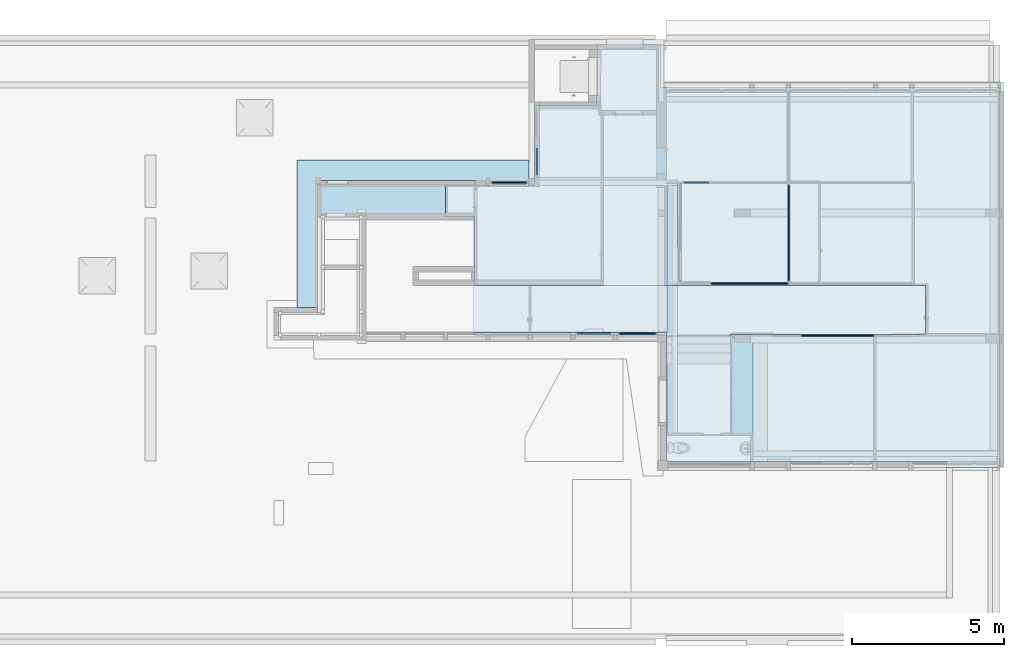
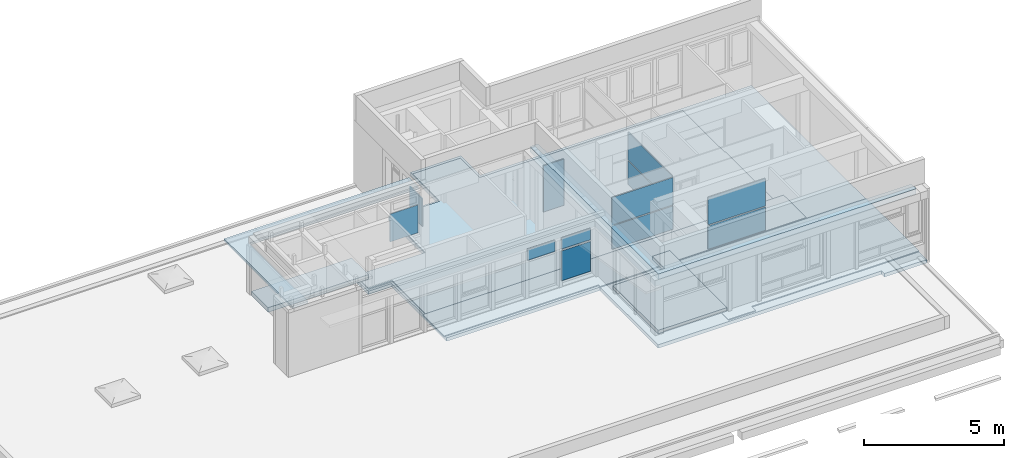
# One storey, part 19 of 49: 12 plates, 7 slabs, 10 elements without a shape of their own.
"""IFC4 building model written with IfcOpenShell, lengths in metres."""

from ifc_helpers import new_model, entity, si_unit, converted_unit, derived_unit, direction, frame, origin, place, context, subcontext, project, spatial, indexed_curve, outline, extrude, shape, source, transform, mapped, material, layer, layer_set, type_object, type_shapes, element, aggregate, save


model = new_model("IFC4")

# Units and contexts
model_context = context("Model", 3, precision=1e-05, world=origin(), true_north=direction((6.12303176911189e-17, 1.0)))
body_context = subcontext(model_context, "Body", "Model", "MODEL_VIEW")
footprint_context = subcontext(model_context, "FootPrint", "Model", "MODEL_VIEW")
ifc_project = project(units=[si_unit("LENGTHUNIT", "METRE"), si_unit("AREAUNIT", "SQUARE_METRE"), si_unit("VOLUMEUNIT", "CUBIC_METRE"), converted_unit("PLANEANGLEUNIT", "DEGREE", entity("IfcRatioMeasure", 0.0174532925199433), si_unit("PLANEANGLEUNIT", "RADIAN"), dimensions=[0, 0, 0, 0, 0, 0, 0]), si_unit("MASSUNIT", "GRAM", prefix="KILO"), derived_unit("MASSDENSITYUNIT", [(si_unit("MASSUNIT", "GRAM", prefix="KILO"), 1), (si_unit("LENGTHUNIT", "METRE"), -3)]), derived_unit("MOMENTOFINERTIAUNIT", [(si_unit("LENGTHUNIT", "METRE"), 4)]), si_unit("TIMEUNIT", "SECOND"), si_unit("FREQUENCYUNIT", "HERTZ"), si_unit("THERMODYNAMICTEMPERATUREUNIT", "DEGREE_CELSIUS"), derived_unit("THERMALTRANSMITTANCEUNIT", [(si_unit("MASSUNIT", "GRAM", prefix="KILO"), 1), (si_unit("THERMODYNAMICTEMPERATUREUNIT", "KELVIN"), -1), (si_unit("TIMEUNIT", "SECOND"), -3)]), derived_unit("VOLUMETRICFLOWRATEUNIT", [(si_unit("LENGTHUNIT", "METRE"), 3), (si_unit("TIMEUNIT", "SECOND"), -1)]), si_unit("ELECTRICCURRENTUNIT", "AMPERE"), si_unit("ELECTRICVOLTAGEUNIT", "VOLT"), si_unit("POWERUNIT", "WATT"), si_unit("FORCEUNIT", "NEWTON", prefix="KILO"), si_unit("ILLUMINANCEUNIT", "LUX"), si_unit("LUMINOUSFLUXUNIT", "LUMEN"), si_unit("LUMINOUSINTENSITYUNIT", "CANDELA"), derived_unit("USERDEFINED", [(si_unit("MASSUNIT", "GRAM", prefix="KILO"), -1), (si_unit("LENGTHUNIT", "METRE"), -2), (si_unit("TIMEUNIT", "SECOND"), 3), (si_unit("LUMINOUSFLUXUNIT", "LUMEN"), 1)]), derived_unit("LINEARVELOCITYUNIT", [(si_unit("LENGTHUNIT", "METRE"), 1), (si_unit("TIMEUNIT", "SECOND"), -1)]), si_unit("PRESSUREUNIT", "PASCAL"), derived_unit("USERDEFINED", [(si_unit("LENGTHUNIT", "METRE"), -2), (si_unit("MASSUNIT", "GRAM", prefix="KILO"), 1), (si_unit("TIMEUNIT", "SECOND"), -2)]), derived_unit("LINEARFORCEUNIT", [(si_unit("MASSUNIT", "GRAM", prefix="KILO"), 1), (si_unit("LENGTHUNIT", "METRE"), 1), (si_unit("TIMEUNIT", "SECOND"), -2), (si_unit("LENGTHUNIT", "METRE"), -1)]), derived_unit("PLANARFORCEUNIT", [(si_unit("MASSUNIT", "GRAM", prefix="KILO"), 1), (si_unit("LENGTHUNIT", "METRE"), 1), (si_unit("TIMEUNIT", "SECOND"), -2), (si_unit("LENGTHUNIT", "METRE"), -2)])], contexts=[model_context])

# Site, building, storey
site_placement = place(None, origin())
site = spatial("IfcSite", under=ifc_project, at=site_placement, Name="Default", CompositionType="ELEMENT")
building_placement = place(site_placement, origin())
building = spatial("IfcBuilding", under=site, at=building_placement, Name="HOTEL CONSULAIRE BOULOGNE SUR MER", CompositionType="ELEMENT")
storey_placement = place(building_placement, frame((0.0, 0.0, 6.81974152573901)))
storey = spatial("IfcBuildingStorey", under=building, at=storey_placement, Name="Niveau 2", CompositionType="ELEMENT", Elevation=6.81974152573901)

# Curtain wall, plates
curtain_wall_type = type_object("IfcCurtainWallType", Name="Mur-rideau:Simple panneau", PredefinedType="NOTDEFINED")
curtain_wall_1_placement = place(storey_placement, frame((0.0, 0.0, -6.81974152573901)))
curtain_wall_1 = element("IfcCurtainWall", 1, at=curtain_wall_1_placement, inside=storey, type_object=curtain_wall_type, Name="Mur-rideau:Simple panneau", ObjectType="Mur-rideau:Simple panneau", PredefinedType="NOTDEFINED")
ifc_material_1 = material(Name="Verre", Category="Verre")
ifc_layer_1 = layer(ifc_material_1, 0.04, Name="Verre", Category="Verre")
ifc_layer_set_1 = layer_set([ifc_layer_1], Name="Mur-rideau:Simple panneau")
plate_type_1 = type_object("IfcPlateType", Name="Panneau système:Plein", PredefinedType="CURTAIN_PANEL", material=ifc_layer_set_1)
shared_shape_1 = source(origin(), body_context, "Body", "SweptSolid", [
    extrude(outline(indexed_curve([(-0.02, -1.1855), (0.02, -1.1855), (0.02, 1.1855), (-0.02, 1.1855), (-0.02, -1.1855)], self_intersect=False)), frame((1.1855, 0.02, 0.0), z_axis=(0.0, 0.0, 1.0), x_axis=(0.0, 1.0, 0.0)), (0.0, 0.0, 1.0), 1.016),
])
shared_shape_2 = source(frame((-1.1855, 0.00500000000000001, 0.0)), footprint_context, "FootPrint", "Curve2D", [
    entity("IfcIndexedPolyCurve", entity("IfcCartesianPointList2D", [[1.5468404, 0.003476], [1.5468404, 0.043476], [-0.824159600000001, 0.043476], [-0.824159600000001, 0.003476], [1.5468404, 0.003476]]), None, False),
])
type_shapes(plate_type_1, [shared_shape_1, shared_shape_2])
plate_1_placement = place(curtain_wall_1_placement, frame((18.4983568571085, -19.648155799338, 6.88974152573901), z_axis=(0.0, 0.0, 1.0), x_axis=(-1.0, 0.0, 0.0)))
plate_1 = element("IfcPlate", 2, at=plate_1_placement, type_object=plate_type_1, material=ifc_layer_set_1, Name="Panneau système:Plein", ObjectType="Panneau système:Plein", PredefinedType="CURTAIN_PANEL", shapes=[
    shape(body_context, "Body", "MappedRepresentation", [mapped(shared_shape_1, transform((0.0, 0.0, 0.0), scale=1.0))]),
    shape(body_context, "Body", "MappedRepresentation", [mapped(shared_shape_2, transform((0.0, 0.0, 0.0), scale=1.0))]),
])
ifc_layer_2 = layer(ifc_material_1, 0.04, Name="Verre", Category="Verre")
ifc_layer_set_2 = layer_set([ifc_layer_2], Name="Mur-rideau:Simple panneau")
plate_type_2 = type_object("IfcPlateType", Name="Panneau système:Vitré", PredefinedType="CURTAIN_PANEL", material=ifc_layer_set_2)
shared_shape_3 = source(origin(), body_context, "Body", "SweptSolid", [
    extrude(outline(indexed_curve([(-0.702, -1.1855), (0.208, -1.1855), (0.494, -1.1855), (0.494, 1.1855), (0.208, 1.1855), (-0.702, 1.1855), (-0.702, -1.1855)], self_intersect=False)), frame((1.1855, 0.0, 0.702), z_axis=(0.0, 1.0, 0.0), x_axis=(0.0, 0.0, 1.0)), (0.0, 0.0, 1.0), 0.04),
])
shared_shape_4 = source(frame((-1.1855, 0.00500000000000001, 0.0)), footprint_context, "FootPrint", "Curve2D", [
    entity("IfcIndexedPolyCurve", entity("IfcCartesianPointList2D", [[-0.824159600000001, 0.003476], [-0.824159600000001, 0.003476], [-0.824159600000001, 0.003476], [1.5468404, 0.003476], [1.5468404, 0.003476], [1.5468404, 0.003476], [-0.824159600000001, 0.003476]]), None, False),
])
type_shapes(plate_type_2, [shared_shape_3, shared_shape_4])
plate_2_placement = place(curtain_wall_1_placement, frame((18.4983568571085, -19.648155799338, 7.95574152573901), z_axis=(0.0, 0.0, 1.0), x_axis=(-1.0, 0.0, 0.0)))
plate_2 = element("IfcPlate", 3, at=plate_2_placement, type_object=plate_type_2, material=ifc_layer_set_2, Name="Panneau système:Vitré", ObjectType="Panneau système:Vitré", PredefinedType="CURTAIN_PANEL", shapes=[
    shape(body_context, "Body", "MappedRepresentation", [mapped(shared_shape_3, transform((0.0, 0.0, 0.0), scale=1.0))]),
    shape(body_context, "Body", "MappedRepresentation", [mapped(shared_shape_4, transform((0.0, 0.0, 0.0), scale=1.0))]),
])
aggregate(curtain_wall_1, [plate_1, plate_2])

# Curtain wall, plate
curtain_wall_2_placement = place(storey_placement, frame((0.0, 0.0, -6.81974152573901)))
curtain_wall_2 = element("IfcCurtainWall", 4, at=curtain_wall_2_placement, inside=storey, type_object=curtain_wall_type, Name="Mur-rideau:Simple panneau", ObjectType="Mur-rideau:Simple panneau", PredefinedType="NOTDEFINED")
plate_type_3 = type_object("IfcPlateType", Name="Panneau système:Plein", PredefinedType="CURTAIN_PANEL", material=ifc_layer_set_1)
shared_shape_5 = source(origin(), body_context, "Body", "SweptSolid", [
    extrude(outline(indexed_curve([(-0.02, -1.2565), (0.02, -1.2565), (0.02, 1.2565), (-0.02, 1.2565), (-0.02, -1.2565)], self_intersect=False)), frame((1.2565, 0.02, 0.0), z_axis=(0.0, 0.0, 1.0), x_axis=(0.0, 1.0, 0.0)), (0.0, 0.0, 1.0), 1.016),
])
shared_shape_6 = source(frame((-1.2565, 0.00500000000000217, 0.0)), footprint_context, "FootPrint", "Curve2D", [
    entity("IfcIndexedPolyCurve", entity("IfcCartesianPointList2D", [[1.6394812, 0.00347600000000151], [1.6394812, 0.0434760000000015], [-0.873518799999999, 0.0434760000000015], [-0.873518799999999, 0.00347600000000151], [1.6394812, 0.00347600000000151]]), None, False),
])
type_shapes(plate_type_3, [shared_shape_5, shared_shape_6])
plate_3_placement = place(curtain_wall_2_placement, frame((15.661075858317, -17.9363078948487, 6.88974152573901), z_axis=(0.0, 0.0, 1.0), x_axis=(-1.0, 0.0, 0.0)))
plate_3 = element("IfcPlate", 5, at=plate_3_placement, type_object=plate_type_3, material=ifc_layer_set_1, Name="Panneau système:Plein", ObjectType="Panneau système:Plein", PredefinedType="CURTAIN_PANEL", shapes=[
    shape(body_context, "Body", "MappedRepresentation", [mapped(shared_shape_5, transform((0.0, 0.0, 0.0), scale=1.0))]),
    shape(body_context, "Body", "MappedRepresentation", [mapped(shared_shape_6, transform((0.0, 0.0, 0.0), scale=1.0))]),
])

curtain_wall_3_placement = place(storey_placement, frame((0.0, 0.0, -6.81974152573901)))
curtain_wall_3 = element("IfcCurtainWall", 6, at=curtain_wall_3_placement, inside=storey, type_object=curtain_wall_type, Name="Mur-rideau:Simple panneau", ObjectType="Mur-rideau:Simple panneau", PredefinedType="NOTDEFINED")
plate_type_4 = type_object("IfcPlateType", Name="Panneau système:Plein", PredefinedType="CURTAIN_PANEL", material=ifc_layer_set_1)
shared_shape_7 = source(origin(), body_context, "Body", "SweptSolid", [
    extrude(outline(indexed_curve([(-1.044, -0.421500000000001), (0.0670000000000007, -0.421500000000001), (0.976999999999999, -0.421500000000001), (0.976999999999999, 0.421500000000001), (0.0670000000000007, 0.421500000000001), (-1.044, 0.421500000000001), (-1.044, -0.421500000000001)], self_intersect=False)), frame((0.421500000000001, 0.0, 1.044), z_axis=(0.0, 1.0, 0.0), x_axis=(0.0, 0.0, 1.0)), (0.0, 0.0, 1.0), 0.04),
])
shared_shape_8 = source(frame((-0.4215, 0.00500000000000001, 0.0)), footprint_context, "FootPrint", "Curve2D", [
    entity("IfcIndexedPolyCurve", entity("IfcCartesianPointList2D", [[-0.2930268, 0.003476], [-0.2930268, 0.003476], [-0.2930268, 0.003476], [0.549973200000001, 0.003476], [0.549973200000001, 0.003476], [0.549973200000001, 0.003476], [-0.2930268, 0.003476]]), None, False),
])
type_shapes(plate_type_4, [shared_shape_7, shared_shape_8])
plate_4_placement = place(curtain_wall_3_placement, frame((13.078075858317, -14.6074237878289, 6.81974152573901), z_axis=(0.0, 0.0, 1.0), x_axis=(-1.0, 0.0, 0.0)))
plate_4 = element("IfcPlate", 7, at=plate_4_placement, type_object=plate_type_4, material=ifc_layer_set_1, Name="Panneau système:Plein", ObjectType="Panneau système:Plein", PredefinedType="CURTAIN_PANEL", shapes=[
    shape(body_context, "Body", "MappedRepresentation", [mapped(shared_shape_7, transform((0.0, 0.0, 0.0), scale=1.0))]),
    shape(body_context, "Body", "MappedRepresentation", [mapped(shared_shape_8, transform((0.0, 0.0, 0.0), scale=1.0))]),
])
aggregate(curtain_wall_3, [plate_4])

# Curtain wall, plates
curtain_wall_4_placement = place(storey_placement, frame((0.0, 0.0, -6.81974152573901)))
curtain_wall_4 = element("IfcCurtainWall", 8, at=curtain_wall_4_placement, inside=storey, type_object=curtain_wall_type, Name="Mur-rideau:Simple panneau", ObjectType="Mur-rideau:Simple panneau", PredefinedType="NOTDEFINED")
plate_type_5 = type_object("IfcPlateType", Name="Panneau système:Plein", PredefinedType="CURTAIN_PANEL", material=ifc_layer_set_1)
shared_shape_9 = source(origin(), body_context, "Body", "SweptSolid", [
    extrude(outline(indexed_curve([(-0.02, -1.56944205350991), (0.02, -1.56944205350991), (0.02, 1.56944205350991), (-0.02, 1.56944205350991), (-0.02, -1.56944205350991)], self_intersect=False)), frame((1.56944205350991, 0.02, 0.0), z_axis=(0.0, 0.0, 1.0), x_axis=(0.0, 1.0, 0.0)), (0.0, 0.0, 1.0), 1.016),
])
shared_shape_10 = source(frame((-1.56944205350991, 0.00500000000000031, 0.0)), footprint_context, "FootPrint", "Curve2D", [
    entity("IfcIndexedPolyCurve", entity("IfcCartesianPointList2D", [[2.04780799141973, 0.00347600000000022], [2.04780799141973, 0.0434760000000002], [-1.09107611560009, 0.0434760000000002], [-1.09107611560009, 0.00347600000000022], [2.04780799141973, 0.00347600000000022]]), None, False),
])
type_shapes(plate_type_5, [shared_shape_9, shared_shape_10])
plate_5_placement = place(curtain_wall_4_placement, frame((15.7220339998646, -17.8613078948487, 6.88974152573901), z_axis=(0.0, 0.0, 1.0), x_axis=(0.0, 1.0, 0.0)))
plate_5 = element("IfcPlate", 9, at=plate_5_placement, type_object=plate_type_5, material=ifc_layer_set_1, Name="Panneau système:Plein", ObjectType="Panneau système:Plein", PredefinedType="CURTAIN_PANEL", shapes=[
    shape(body_context, "Body", "MappedRepresentation", [mapped(shared_shape_9, transform((0.0, 0.0, 0.0), scale=1.0))]),
    shape(body_context, "Body", "MappedRepresentation", [mapped(shared_shape_10, transform((0.0, 0.0, 0.0), scale=1.0))]),
])
plate_type_6 = type_object("IfcPlateType", Name="Panneau système:Vitré", PredefinedType="CURTAIN_PANEL", material=ifc_layer_set_2)
shared_shape_11 = source(origin(), body_context, "Body", "SweptSolid", [
    extrude(outline(indexed_curve([(-0.02, -1.56944205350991), (0.02, -1.56944205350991), (0.02, 1.56944205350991), (-0.02, 1.56944205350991), (-0.02, -1.56944205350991)], self_intersect=False)), frame((1.56944205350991, 0.02, 0.0), z_axis=(0.0, 0.0, 1.0), x_axis=(0.0, 1.0, 0.0)), (0.0, 0.0, 1.0), 1.196),
])
shared_shape_12 = source(frame((-1.56944205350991, 0.00500000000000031, 0.0)), footprint_context, "FootPrint", "Curve2D", [
    entity("IfcIndexedPolyCurve", entity("IfcCartesianPointList2D", [[2.04780799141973, 0.00347600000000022], [2.04780799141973, 0.0434760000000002], [-1.09107611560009, 0.0434760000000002], [-1.09107611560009, 0.00347600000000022], [2.04780799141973, 0.00347600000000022]]), None, False),
])
type_shapes(plate_type_6, [shared_shape_11, shared_shape_12])
plate_6_placement = place(curtain_wall_4_placement, frame((15.7220339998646, -17.8613078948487, 7.95574152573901), z_axis=(0.0, 0.0, 1.0), x_axis=(0.0, 1.0, 0.0)))
plate_6 = element("IfcPlate", 10, at=plate_6_placement, type_object=plate_type_6, material=ifc_layer_set_2, Name="Panneau système:Vitré", ObjectType="Panneau système:Vitré", PredefinedType="CURTAIN_PANEL", shapes=[
    shape(body_context, "Body", "MappedRepresentation", [mapped(shared_shape_11, transform((0.0, 0.0, 0.0), scale=1.0))]),
    shape(body_context, "Body", "MappedRepresentation", [mapped(shared_shape_12, transform((0.0, 0.0, 0.0), scale=1.0))]),
])
aggregate(curtain_wall_4, [plate_5, plate_6])

# Curtain wall, plate
curtain_wall_5_placement = place(storey_placement, frame((0.0, 0.0, -6.81974152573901)))
curtain_wall_5 = element("IfcCurtainWall", 11, at=curtain_wall_5_placement, inside=storey, type_object=curtain_wall_type, Name="Mur-rideau:Simple panneau", ObjectType="Mur-rideau:Simple panneau", PredefinedType="NOTDEFINED")
plate_type_7 = type_object("IfcPlateType", Name="Panneau système:Vitré", PredefinedType="CURTAIN_PANEL", material=ifc_layer_set_2)
shared_shape_13 = source(origin(), body_context, "Body", "SweptSolid", [
    extrude(outline(indexed_curve([(-0.02, -0.57), (0.02, -0.57), (0.02, 0.57), (-0.02, 0.57), (-0.02, -0.57)], self_intersect=False)), frame((0.57, 0.02, 0.0), z_axis=(0.0, 0.0, 1.0), x_axis=(0.0, 1.0, 0.0)), (0.0, 0.0, 1.0), 0.48689394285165),
])
shared_shape_14 = source(frame((-0.569999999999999, 0.00500000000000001, 0.0)), footprint_context, "FootPrint", "Curve2D", [
    entity("IfcIndexedPolyCurve", entity("IfcCartesianPointList2D", [[0.743736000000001, 0.003476], [0.743736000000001, 0.043476], [-0.396263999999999, 0.043476], [-0.396263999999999, 0.003476], [0.743736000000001, 0.003476]]), None, False),
])
type_shapes(plate_type_7, [shared_shape_13, shared_shape_14])
plate_7_placement = place(curtain_wall_5_placement, frame((8.70421154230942, -19.6269143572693, 8.96174152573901)))
plate_7 = element("IfcPlate", 12, at=plate_7_placement, type_object=plate_type_7, material=ifc_layer_set_2, Name="Panneau système:Vitré", ObjectType="Panneau système:Vitré", PredefinedType="CURTAIN_PANEL", shapes=[
    shape(body_context, "Body", "MappedRepresentation", [mapped(shared_shape_13, transform((0.0, 0.0, 0.0), scale=1.0))]),
    shape(body_context, "Body", "MappedRepresentation", [mapped(shared_shape_14, transform((0.0, 0.0, 0.0), scale=1.0))]),
])
aggregate(curtain_wall_5, [plate_7])

# Curtain wall, plates
curtain_wall_6_placement = place(storey_placement, frame((0.0, 0.0, -6.81974152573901)))
curtain_wall_6 = element("IfcCurtainWall", 13, at=curtain_wall_6_placement, inside=storey, type_object=curtain_wall_type, Name="Mur-rideau:Simple panneau", ObjectType="Mur-rideau:Simple panneau", PredefinedType="NOTDEFINED")
plate_type_8 = type_object("IfcPlateType", Name="Panneau système:Vitré", PredefinedType="CURTAIN_PANEL", material=ifc_layer_set_2)
shared_shape_15 = source(origin(), body_context, "Body", "SweptSolid", [
    extrude(outline(indexed_curve([(-0.02, -0.603865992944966), (0.02, -0.603865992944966), (0.02, 0.603865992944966), (-0.02, 0.603865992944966), (-0.02, -0.603865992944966)], self_intersect=False)), frame((0.603865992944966, 0.02, 0.0), z_axis=(0.0, 0.0, 1.0), x_axis=(0.0, 1.0, 0.0)), (0.0, 0.0, 1.0), 1.302),
])
shared_shape_16 = source(frame((-0.603865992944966, 0.00500000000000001, 0.0)), footprint_context, "FootPrint", "Curve2D", [
    entity("IfcIndexedPolyCurve", entity("IfcCartesianPointList2D", [[0.787924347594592, 0.003476], [0.787924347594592, 0.043476], [-0.419807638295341, 0.043476], [-0.419807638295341, 0.003476], [0.787924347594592, 0.003476]]), None, False),
])
type_shapes(plate_type_8, [shared_shape_15, shared_shape_16])
plate_8_placement = place(curtain_wall_6_placement, frame((10.1042115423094, -19.6269143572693, 7.57974152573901)))
plate_8 = element("IfcPlate", 14, at=plate_8_placement, type_object=plate_type_8, material=ifc_layer_set_2, Name="Panneau système:Vitré", ObjectType="Panneau système:Vitré", PredefinedType="CURTAIN_PANEL", shapes=[
    shape(body_context, "Body", "MappedRepresentation", [mapped(shared_shape_15, transform((0.0, 0.0, 0.0), scale=1.0))]),
    shape(body_context, "Body", "MappedRepresentation", [mapped(shared_shape_16, transform((0.0, 0.0, 0.0), scale=1.0))]),
])
plate_type_9 = type_object("IfcPlateType", Name="Panneau système:Vitré", PredefinedType="CURTAIN_PANEL", material=ifc_layer_set_2)
shared_shape_17 = source(origin(), body_context, "Body", "SweptSolid", [
    extrude(outline(indexed_curve([(-0.02, -0.603865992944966), (0.02, -0.603865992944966), (0.02, 0.603865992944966), (-0.02, 0.603865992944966), (-0.02, -0.603865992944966)], self_intersect=False)), frame((0.603865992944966, 0.02, 0.0), z_axis=(0.0, 0.0, 1.0), x_axis=(0.0, 1.0, 0.0)), (0.0, 0.0, 1.0), 0.48689394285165),
])
shared_shape_18 = source(frame((-0.603865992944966, 0.00500000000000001, 0.0)), footprint_context, "FootPrint", "Curve2D", [
    entity("IfcIndexedPolyCurve", entity("IfcCartesianPointList2D", [[0.787924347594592, 0.003476], [0.787924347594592, 0.043476], [-0.419807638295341, 0.043476], [-0.419807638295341, 0.003476], [0.787924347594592, 0.003476]]), None, False),
])
type_shapes(plate_type_9, [shared_shape_17, shared_shape_18])
plate_9_placement = place(curtain_wall_6_placement, frame((10.1042115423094, -19.6269143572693, 8.96174152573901)))
plate_9 = element("IfcPlate", 15, at=plate_9_placement, type_object=plate_type_9, material=ifc_layer_set_2, Name="Panneau système:Vitré", ObjectType="Panneau système:Vitré", PredefinedType="CURTAIN_PANEL", shapes=[
    shape(body_context, "Body", "MappedRepresentation", [mapped(shared_shape_17, transform((0.0, 0.0, 0.0), scale=1.0))]),
    shape(body_context, "Body", "MappedRepresentation", [mapped(shared_shape_18, transform((0.0, 0.0, 0.0), scale=1.0))]),
])
aggregate(curtain_wall_6, [plate_8, plate_9])

# Slabs
ifc_material_2 = material(Name="Béton - Béton coulé sur place", Category="Béton")
ifc_layer_3 = layer(ifc_material_2, 0.15, Name="Béton - Béton coulé sur place", Category="Béton")
ifc_layer_set_3 = layer_set([ifc_layer_3], Name="Sol:Dalle en béton 150")
slab_type_1 = type_object("IfcSlabType", Name="Sol:Dalle en béton 150", PredefinedType="FLOOR", material=ifc_layer_set_3)
slab_1_placement = place(storey_placement, origin())
element("IfcSlab", 16, at=slab_1_placement, inside=storey, type_object=slab_type_1, material=ifc_layer_set_3, Name="Sol:Dalle en béton 150", ObjectType="Sol:Dalle en béton 150", PredefinedType="FLOOR", context=body_context, shape_type="SweptSolid", body=[
    extrude(outline(indexed_curve([(0.706608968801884, -7.26550539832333), (1.73894009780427, -7.26550539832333), (1.73894009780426, -4.32751212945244), (4.36605970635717, -4.32751212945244), (4.36605970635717, -2.27464720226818), (6.37652684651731, -2.25530002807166), (6.3765268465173, -0.175533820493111), (4.97542722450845, -0.175533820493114), (4.97542722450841, 11.0314435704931), (-7.57524974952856, 11.0314435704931), (-7.57524974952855, 9.26638281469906), (-7.37524974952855, 9.26638281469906), (-7.37524974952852, 0.0354511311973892), (-3.21306334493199, 0.0354511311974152), (-3.21306334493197, -6.29975255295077), (0.706608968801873, -6.29975255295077), (0.706608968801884, -7.26550539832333)], self_intersect=False)), frame((11.6364923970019, -16.4518510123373, -0.0349999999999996), z_axis=(0.0, 0.0, -1.0), x_axis=(0.0, 1.0, 0.0)), (0.0, 0.0, 1.0), 0.149999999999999),
])
slab_type_2 = type_object("IfcSlabType", Name="Sol:Dalle en béton 150", PredefinedType="FLOOR", material=ifc_layer_set_3)
slab_2_placement = place(storey_placement, origin())
element("IfcSlab", 17, at=slab_2_placement, inside=storey, type_object=slab_type_2, material=ifc_layer_set_3, Name="Sol:Dalle en béton 150", ObjectType="Sol:Dalle en béton 150", PredefinedType="FLOOR", context=body_context, shape_type="SweptSolid", body=[
    extrude(outline(indexed_curve([(-2.45142182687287, -1.662357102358), (0.78976912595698, -1.662357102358), (0.789769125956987, 0.474749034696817), (1.66165270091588, 0.474749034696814), (1.66165270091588, 1.18760806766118), (-2.45142182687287, 1.18760806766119), (-2.45142182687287, -1.662357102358)], self_intersect=False)), frame((13.3343006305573, -21.375678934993, 0.595), z_axis=(0.0, 0.0, -1.0), x_axis=(0.0, 1.0, 0.0)), (0.0, 0.0, 1.0), 0.149999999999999),
])
ifc_material_3 = material(Name="carrelage 30x30")
ifc_layer_4 = layer(ifc_material_3, 0.035, Name="carrelage 30x30")
ifc_layer_set_4 = layer_set([ifc_layer_4], Name="Sol:carrelage 30x30 2")
slab_type_3 = type_object("IfcSlabType", Name="Sol:carrelage 30x30 2", PredefinedType="FLOOR", material=ifc_layer_set_4)
slab_3_placement = place(storey_placement, origin())
element("IfcSlab", 18, at=slab_3_placement, inside=storey, type_object=slab_type_3, material=ifc_layer_set_4, Name="Sol:carrelage 30x30 2", ObjectType="Sol:carrelage 30x30 2", PredefinedType="FLOOR", context=body_context, shape_type="SweptSolid", body=[
    extrude(outline(indexed_curve([(-0.3366120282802, -7.43792885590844), (1.20341479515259, -7.43792885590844), (1.20341479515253, 7.47121645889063), (-0.414853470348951, 7.47121645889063), (-0.414853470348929, 1.03190926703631), (-0.451949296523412, 1.03190926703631), (-0.451949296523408, -1.0651968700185), (-0.336612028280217, -1.0651968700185), (-0.3366120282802, -7.43792885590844)], self_intersect=False)), frame((12.7371403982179, -19.2283023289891, 0.0), z_axis=(0.0, 0.0, -1.0), x_axis=(0.0, 1.0, 0.0)), (0.0, 0.0, 1.0), 0.0349999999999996),
])

# Plate
plate_type_10 = type_object("IfcPlateType", Name="Panneau système:Vitré", PredefinedType="CURTAIN_PANEL", material=ifc_layer_set_2)
shared_shape_19 = source(origin(), body_context, "Body", "SweptSolid", [
    extrude(outline(indexed_curve([(-0.701999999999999, -1.2565), (0.207999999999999, -1.2565), (0.493999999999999, -1.2565), (0.493999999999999, 1.2565), (0.207999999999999, 1.2565), (-0.701999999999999, 1.2565), (-0.701999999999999, -1.2565)], self_intersect=False)), frame((1.2565, 0.0, 0.701999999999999), z_axis=(0.0, 1.0, 0.0), x_axis=(0.0, 0.0, 1.0)), (0.0, 0.0, 1.0), 0.04),
])
shared_shape_20 = source(frame((-1.2565, 0.00500000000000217, 0.0)), footprint_context, "FootPrint", "Curve2D", [
    entity("IfcIndexedPolyCurve", entity("IfcCartesianPointList2D", [[-0.873518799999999, 0.00347600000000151], [-0.873518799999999, 0.00347600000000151], [-0.873518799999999, 0.00347600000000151], [1.6394812, 0.00347600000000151], [1.6394812, 0.00347600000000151], [1.6394812, 0.00347600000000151], [-0.873518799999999, 0.00347600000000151]]), None, False),
])
type_shapes(plate_type_10, [shared_shape_19, shared_shape_20])
plate_10_placement = place(curtain_wall_2_placement, frame((15.661075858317, -17.9363078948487, 7.95574152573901), z_axis=(0.0, 0.0, 1.0), x_axis=(-1.0, 0.0, 0.0)))
plate_10 = element("IfcPlate", 19, at=plate_10_placement, type_object=plate_type_10, material=ifc_layer_set_2, Name="Panneau système:Vitré", ObjectType="Panneau système:Vitré", PredefinedType="CURTAIN_PANEL", shapes=[
    shape(body_context, "Body", "MappedRepresentation", [mapped(shared_shape_19, transform((0.0, 0.0, 0.0), scale=1.0))]),
    shape(body_context, "Body", "MappedRepresentation", [mapped(shared_shape_20, transform((0.0, 0.0, 0.0), scale=1.0))]),
])

aggregate(curtain_wall_2, [plate_3, plate_10])

# Slab
ifc_material_4 = material(Name="moquette grenat")
ifc_layer_5 = layer(ifc_material_4, 0.035, Name="moquette grenat")
ifc_layer_set_5 = layer_set([ifc_layer_5], Name="Sol:Moquette grenat")
slab_type_4 = type_object("IfcSlabType", Name="Sol:Moquette grenat", PredefinedType="FLOOR", material=ifc_layer_set_5)
slab_4_placement = place(storey_placement, origin())
element("IfcSlab", 20, at=slab_4_placement, inside=storey, type_object=slab_type_4, material=ifc_layer_set_5, Name="Sol:Moquette grenat", ObjectType="Sol:Moquette grenat", PredefinedType="FLOOR", context=body_context, shape_type="SweptSolid", body=[
    extrude(outline(indexed_curve([(-3.38914954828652, -2.19249764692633), (-2.90714954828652, -2.19249764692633), (4.66077442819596, -2.19249764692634), (4.66077442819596, 1.88144731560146), (3.53109944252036, 1.88144731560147), (3.53109944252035, 1.59144731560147), (-3.30914954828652, 1.59144731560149), (-3.38914954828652, 1.59144731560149), (-3.38914954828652, -1.95974363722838), (-3.38914954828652, -2.19249764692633)], self_intersect=False)), frame((19.2787864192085, -21.8756534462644, -0.0349999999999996), z_axis=(0.0, 0.0, 1.0), x_axis=(-1.0, 0.0, 0.0)), (0.0, 0.0, 1.0), 0.0349999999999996),
    extrude(outline(indexed_curve([(-5.8692156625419, -4.58887251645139), (8.48087990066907, -4.58887251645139), (8.48087990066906, -1.21540877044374), (8.44162555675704, -1.21540877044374), (8.44162555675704, 1.79959122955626), (4.46823822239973, 1.79959122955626), (4.31823822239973, 1.79959122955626), (3.26823822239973, 1.79959122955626), (3.11823822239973, 1.79959122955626), (0.0597626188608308, 1.79959122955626), (0.0597626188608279, 3.19569085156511), (-1.90159142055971, 3.19569085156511), (-1.92045743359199, 1.23522371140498), (-3.81221569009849, 1.23522371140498), (-3.97221569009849, 1.23522371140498), (-3.97221569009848, -1.05689589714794), (-3.97221569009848, -1.27689589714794), (-4.16772818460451, -1.27689589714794), (-6.84020895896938, -1.27689589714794), (-6.84020895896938, -2.19922702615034), (-5.86921566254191, -2.19922702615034), (-5.8692156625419, -4.58887251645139)], self_intersect=False)), frame((11.281195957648, -13.4360150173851, -0.0350000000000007)), (0.0, 0.0, 1.0), 0.0349999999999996),
])

# Curtain wall, plate
curtain_wall_7_placement = place(storey_placement, frame((0.0, 0.0, -6.81974152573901)))
curtain_wall_7 = element("IfcCurtainWall", 21, at=curtain_wall_7_placement, inside=storey, type_object=curtain_wall_type, Name="Mur-rideau:Simple panneau", ObjectType="Mur-rideau:Simple panneau", PredefinedType="NOTDEFINED")
plate_type_11 = type_object("IfcPlateType", Name="Panneau système:Vitré", PredefinedType="CURTAIN_PANEL", material=ifc_layer_set_2)
shared_shape_21 = source(origin(), body_context, "Body", "SweptSolid", [
    extrude(outline(indexed_curve([(-0.02, -0.456588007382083), (0.02, -0.456588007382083), (0.02, 0.456588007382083), (-0.02, 0.456588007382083), (-0.02, -0.456588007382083)], self_intersect=False)), frame((0.456588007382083, 0.02, 0.0), z_axis=(0.0, 0.0, 1.0), x_axis=(0.0, 1.0, 0.0)), (0.0, 0.0, 1.0), 1.214),
])
shared_shape_22 = source(frame((-0.456588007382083, 0.00500000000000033, 0.0)), footprint_context, "FootPrint", "Curve2D", [
    entity("IfcIndexedPolyCurve", entity("IfcCartesianPointList2D", [[0.595756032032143, 0.00347600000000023], [0.595756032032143, 0.0434760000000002], [-0.317419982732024, 0.0434760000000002], [-0.317419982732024, 0.00347600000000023], [0.595756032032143, 0.00347600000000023]]), None, False),
])
type_shapes(plate_type_11, [shared_shape_21, shared_shape_22])
plate_11_placement = place(curtain_wall_7_placement, frame((7.3739802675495, -13.4799109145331, 7.73447563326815), z_axis=(0.0, 0.0, 1.0), x_axis=(0.0, -1.0, 0.0)))
plate_11 = element("IfcPlate", 22, at=plate_11_placement, type_object=plate_type_11, material=ifc_layer_set_2, Name="Panneau système:Vitré", ObjectType="Panneau système:Vitré", PredefinedType="CURTAIN_PANEL", shapes=[
    shape(body_context, "Body", "MappedRepresentation", [mapped(shared_shape_21, transform((0.0, 0.0, 0.0), scale=1.0))]),
    shape(body_context, "Body", "MappedRepresentation", [mapped(shared_shape_22, transform((0.0, 0.0, 0.0), scale=1.0))]),
])
aggregate(curtain_wall_7, [plate_11])

# Roof, slab
roof_1_placement = place(storey_placement, frame((-0.515996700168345, -18.7546212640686, 2.73999999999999)))
roof_1 = element("IfcRoof", 23, at=roof_1_placement, inside=storey, Name="Toit de base:Toit - 100 mm béton", ObjectType="Toit de base:Toit - 100 mm béton", PredefinedType="NOTDEFINED")
slab_type_5 = type_object("IfcSlabType", Name="Toit de base:Toit - 100 mm béton", PredefinedType="ROOF")
slab_5_placement = place(roof_1_placement, origin())
slab_5 = element("IfcSlab", 24, at=slab_5_placement, type_object=slab_type_5, Name="Toit de base:Toit - 100 mm béton", ObjectType="Toit de base:Toit - 100 mm béton", PredefinedType="NOTDEFINED", context=body_context, shape_type="SweptSolid", body=[
    extrude(outline(indexed_curve([(-3.16485672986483, 1.75569017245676), (-3.01485672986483, 1.75569017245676), (-2.87885672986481, 1.75569017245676), (-2.10885672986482, 1.75569017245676), (3.82248848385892, 1.75569017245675), (3.82248848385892, 2.43602017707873), (-3.82248848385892, 2.43602017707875), (-3.82248848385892, -2.43602017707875), (-3.21485672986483, -2.43602017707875), (-3.16485672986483, -2.43602017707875), (-3.16485672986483, 1.60569017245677), (-3.16485672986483, 1.75569017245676)], self_intersect=False)), frame((3.82248848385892, 2.43602017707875, 0.0)), (0.0, 0.0, 1.0), 0.1),
])
aggregate(roof_1, [slab_5])

# Curtain wall, plate
curtain_wall_8_placement = place(storey_placement, frame((0.0, 0.0, -6.81974152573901)))
curtain_wall_8 = element("IfcCurtainWall", 25, at=curtain_wall_8_placement, inside=storey, type_object=curtain_wall_type, Name="Mur-rideau:Simple panneau", ObjectType="Mur-rideau:Simple panneau", PredefinedType="NOTDEFINED")
plate_type_12 = type_object("IfcPlateType", Name="Panneau système:Vitré", PredefinedType="CURTAIN_PANEL", material=ifc_layer_set_2)
shared_shape_23 = source(origin(), body_context, "Body", "SweptSolid", [
    extrude(outline(indexed_curve([(-0.02, -0.57462811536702), (0.02, -0.57462811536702), (0.02, 0.57462811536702), (-0.02, 0.57462811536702), (-0.02, -0.57462811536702)], self_intersect=False)), frame((0.57462811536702, 0.02, 0.0), z_axis=(0.0, 0.0, 1.0), x_axis=(0.0, 1.0, 0.0)), (0.0, 0.0, 1.0), 1.214),
])
shared_shape_24 = source(frame((-0.574628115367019, 0.00500000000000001, 0.0)), footprint_context, "FootPrint", "Curve2D", [
    entity("IfcIndexedPolyCurve", entity("IfcCartesianPointList2D", [[0.749774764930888, 0.003476], [0.749774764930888, 0.043476], [-0.399481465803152, 0.043476], [-0.399481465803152, 0.003476], [0.749774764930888, 0.003476]]), None, False),
])
type_shapes(plate_type_12, [shared_shape_23, shared_shape_24])
plate_12_placement = place(curtain_wall_8_placement, frame((5.90421154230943, -14.6479109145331, 7.73447563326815)))
plate_12 = element("IfcPlate", 26, at=plate_12_placement, type_object=plate_type_12, material=ifc_layer_set_2, Name="Panneau système:Vitré", ObjectType="Panneau système:Vitré", PredefinedType="CURTAIN_PANEL", shapes=[
    shape(body_context, "Body", "MappedRepresentation", [mapped(shared_shape_23, transform((0.0, 0.0, 0.0), scale=1.0))]),
    shape(body_context, "Body", "MappedRepresentation", [mapped(shared_shape_24, transform((0.0, 0.0, 0.0), scale=1.0))]),
])
aggregate(curtain_wall_8, [plate_12])

# Roof, slab
roof_type = type_object("IfcRoofType", Name="Toit de base:Toit - 100 mm", PredefinedType="NOTDEFINED")
roof_2_placement = place(storey_placement, frame((11.6819086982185, -23.8271007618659, 2.822)))
roof_2 = element("IfcRoof", 27, at=roof_2_placement, inside=storey, type_object=roof_type, Name="Toit de base:Toit - 100 mm", ObjectType="Toit de base:Toit - 100 mm", PredefinedType="NOTDEFINED")
slab_type_6 = type_object("IfcSlabType", Name="Toit de base:Toit - 100 mm", PredefinedType="ROOF")
slab_6_placement = place(storey_placement, frame((11.6819086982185, -23.8271007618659, 2.822)))
slab_6 = element("IfcSlab", 28, at=slab_6_placement, type_object=slab_type_6, Name="Toit de base:Toit - 100 mm:1", ObjectType="Toit de base:Toit - 100 mm", PredefinedType="ROOF", context=body_context, shape_type="SweptSolid", body=[
    extrude(outline(indexed_curve([(-6.76846397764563, -3.8094798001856), (-6.75012711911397, -3.8094798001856), (2.42554985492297, -3.8094798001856), (2.42554985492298, -1.0494798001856), (2.42554985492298, -0.969479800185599), (2.42554985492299, 3.00629847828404), (2.42554985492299, 3.07629847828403), (2.42554985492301, 6.84724979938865), (2.08064717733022, 6.84724979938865), (2.08064717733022, 3.07629847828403), (2.08064717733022, 3.00629847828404), (2.0806471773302, -0.969479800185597), (2.0806471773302, -1.0494798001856), (2.0806471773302, -3.46444497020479), (-6.75012711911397, -3.46444497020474), (-6.76846397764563, -3.46444497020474), (-6.76846397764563, -3.8094798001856)], self_intersect=False)), frame((3.8094798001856, 2.42554985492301, 0.0), z_axis=(0.0, 0.0, 1.0), x_axis=(0.0, -1.0, 0.0)), (0.0, 0.0, 1.0), 0.23),
])
aggregate(roof_2, [slab_6])

# Slab
ifc_layer_6 = layer(ifc_material_2, 0.2, Name="Béton - Béton coulé sur place", Category="Béton")
ifc_layer_set_6 = layer_set([ifc_layer_6], Name="Sol:Dalle en béton 200 mm")
slab_type_7 = type_object("IfcSlabType", Name="Sol:Dalle en béton 200 mm", PredefinedType="FLOOR", material=ifc_layer_set_6)
slab_7_placement = place(storey_placement, origin())
element("IfcSlab", 29, at=slab_7_placement, inside=storey, type_object=slab_type_7, material=ifc_layer_set_6, Name="Sol:Dalle en béton 200 mm", ObjectType="Sol:Dalle en béton 200 mm", PredefinedType="FLOOR", context=body_context, shape_type="SweptSolid", body=[
    extrude(outline(indexed_curve([(-0.596165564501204, -2.07717597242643), (0.596165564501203, -2.07717597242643), (0.5961655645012, 2.07717597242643), (-0.596165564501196, 2.07717597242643), (-0.596165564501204, -2.07717597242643)], self_intersect=False)), frame((2.29381102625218, -15.1590764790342, 0.7), z_axis=(0.0, 0.0, -1.0), x_axis=(0.0, 1.0, 0.0)), (0.0, 0.0, 1.0), 0.2),
])

save(model, "model.ifc")
